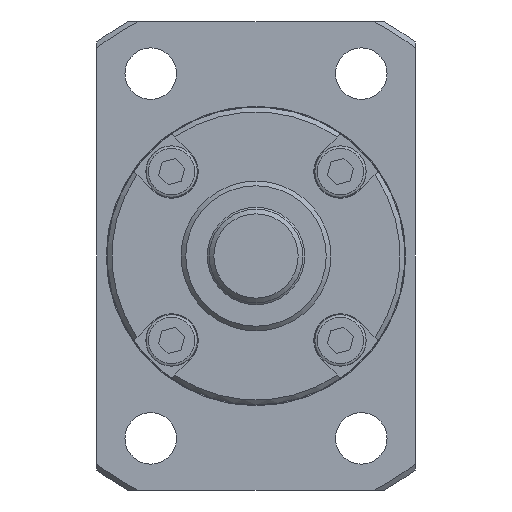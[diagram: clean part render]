
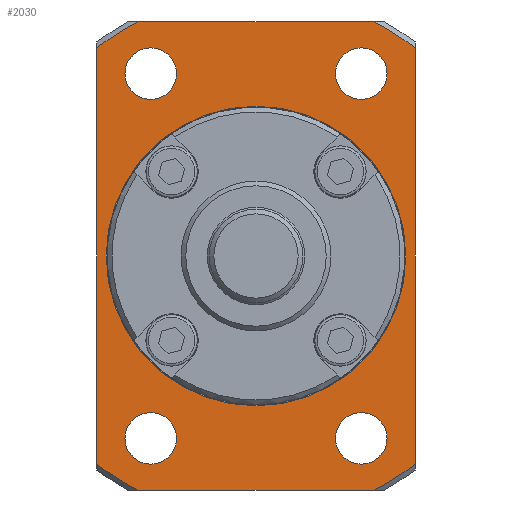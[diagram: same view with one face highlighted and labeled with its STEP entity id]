
A CAD part, left-side view. The second image highlights one B-rep face of the part: STEP entity #2030.
In plain terms, the highlighted planar face has unit normal (-1, 0, 0).
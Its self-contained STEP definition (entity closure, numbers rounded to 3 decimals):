
#187=CIRCLE('',#2260,28.);
#188=CIRCLE('',#2262,28.);
#189=CIRCLE('',#2264,28.);
#190=CIRCLE('',#2266,28.);
#191=CIRCLE('',#2268,14.4);
#192=CIRCLE('',#2269,2.75);
#193=CIRCLE('',#2270,2.75);
#194=CIRCLE('',#2271,2.75);
#195=CIRCLE('',#2272,2.75);
#449=ORIENTED_EDGE('',*,*,#918,.T.);
#450=ORIENTED_EDGE('',*,*,#919,.T.);
#451=ORIENTED_EDGE('',*,*,#920,.T.);
#452=ORIENTED_EDGE('',*,*,#921,.T.);
#453=ORIENTED_EDGE('',*,*,#922,.T.);
#454=ORIENTED_EDGE('',*,*,#907,.F.);
#455=ORIENTED_EDGE('',*,*,#923,.F.);
#456=ORIENTED_EDGE('',*,*,#909,.F.);
#457=ORIENTED_EDGE('',*,*,#924,.T.);
#458=ORIENTED_EDGE('',*,*,#913,.F.);
#459=ORIENTED_EDGE('',*,*,#925,.F.);
#460=ORIENTED_EDGE('',*,*,#915,.F.);
#461=ORIENTED_EDGE('',*,*,#926,.F.);
#907=EDGE_CURVE('',#1147,#1148,#187,.T.);
#909=EDGE_CURVE('',#1149,#1150,#188,.T.);
#913=EDGE_CURVE('',#1151,#1152,#189,.T.);
#915=EDGE_CURVE('',#1153,#1154,#190,.T.);
#918=EDGE_CURVE('',#1155,#1155,#191,.T.);
#919=EDGE_CURVE('',#1156,#1156,#192,.T.);
#920=EDGE_CURVE('',#1157,#1157,#193,.T.);
#921=EDGE_CURVE('',#1158,#1158,#194,.T.);
#922=EDGE_CURVE('',#1159,#1159,#195,.T.);
#923=EDGE_CURVE('',#1150,#1147,#1281,.T.);
#924=EDGE_CURVE('',#1149,#1152,#1282,.T.);
#925=EDGE_CURVE('',#1154,#1151,#1283,.T.);
#926=EDGE_CURVE('',#1148,#1153,#1284,.T.);
#1147=VERTEX_POINT('',#3396);
#1148=VERTEX_POINT('',#3398);
#1149=VERTEX_POINT('',#3405);
#1150=VERTEX_POINT('',#3406);
#1151=VERTEX_POINT('',#3420);
#1152=VERTEX_POINT('',#3422);
#1153=VERTEX_POINT('',#3429);
#1154=VERTEX_POINT('',#3430);
#1155=VERTEX_POINT('',#3441);
#1156=VERTEX_POINT('',#3443);
#1157=VERTEX_POINT('',#3445);
#1158=VERTEX_POINT('',#3447);
#1159=VERTEX_POINT('',#3449);
#1281=LINE('',#3450,#1413);
#1282=LINE('',#3451,#1414);
#1283=LINE('',#3452,#1415);
#1284=LINE('',#3453,#1416);
#1413=VECTOR('',#2721,1000.);
#1414=VECTOR('',#2722,1000.);
#1415=VECTOR('',#2723,1000.);
#1416=VECTOR('',#2724,1000.);
#1569=EDGE_LOOP('',(#449));
#1570=EDGE_LOOP('',(#450));
#1571=EDGE_LOOP('',(#451));
#1572=EDGE_LOOP('',(#452));
#1573=EDGE_LOOP('',(#453));
#1574=EDGE_LOOP('',(#454,#455,#456,#457,#458,#459,#460,#461));
#1778=FACE_BOUND('',#1569,.T.);
#1779=FACE_BOUND('',#1570,.T.);
#1780=FACE_BOUND('',#1571,.T.);
#1781=FACE_BOUND('',#1572,.T.);
#1782=FACE_BOUND('',#1573,.T.);
#1783=FACE_BOUND('',#1574,.T.);
#1922=PLANE('',#2267);
#2030=ADVANCED_FACE('',(#1778,#1779,#1780,#1781,#1782,#1783),#1922,.T.);
#2260=AXIS2_PLACEMENT_3D('',#3397,#2695,#2696);
#2262=AXIS2_PLACEMENT_3D('',#3404,#2699,#2700);
#2264=AXIS2_PLACEMENT_3D('',#3421,#2703,#2704);
#2266=AXIS2_PLACEMENT_3D('',#3428,#2707,#2708);
#2267=AXIS2_PLACEMENT_3D('',#3439,#2709,#2710);
#2268=AXIS2_PLACEMENT_3D('',#3440,#2711,#2712);
#2269=AXIS2_PLACEMENT_3D('',#3442,#2713,#2714);
#2270=AXIS2_PLACEMENT_3D('',#3444,#2715,#2716);
#2271=AXIS2_PLACEMENT_3D('',#3446,#2717,#2718);
#2272=AXIS2_PLACEMENT_3D('',#3448,#2719,#2720);
#2695=DIRECTION('',(1.,0.,0.));
#2696=DIRECTION('',(0.,0.,-1.));
#2699=DIRECTION('',(1.,0.,0.));
#2700=DIRECTION('',(0.,0.,-1.));
#2703=DIRECTION('',(1.,0.,0.));
#2704=DIRECTION('',(0.,0.,-1.));
#2707=DIRECTION('',(1.,0.,0.));
#2708=DIRECTION('',(0.,0.,-1.));
#2709=DIRECTION('',(-1.,0.,0.));
#2710=DIRECTION('',(0.,0.,1.));
#2711=DIRECTION('',(1.,0.,0.));
#2712=DIRECTION('',(0.,0.,-1.));
#2713=DIRECTION('',(1.,0.,0.));
#2714=DIRECTION('',(0.,0.,-1.));
#2715=DIRECTION('',(1.,0.,0.));
#2716=DIRECTION('',(0.,0.,-1.));
#2717=DIRECTION('',(1.,0.,0.));
#2718=DIRECTION('',(0.,0.,-1.));
#2719=DIRECTION('',(1.,0.,0.));
#2720=DIRECTION('',(0.,0.,-1.));
#2721=DIRECTION('',(0.,-1.,0.));
#2722=DIRECTION('',(0.,0.,-1.));
#2723=DIRECTION('',(0.,1.,0.));
#2724=DIRECTION('',(0.,0.,-1.));
#3396=CARTESIAN_POINT('',(23.,-12.61,25.));
#3397=CARTESIAN_POINT('',(23.,0.,0.));
#3398=CARTESIAN_POINT('',(23.,-17.,22.249));
#3404=CARTESIAN_POINT('',(23.,0.,0.));
#3405=CARTESIAN_POINT('',(23.,17.,22.249));
#3406=CARTESIAN_POINT('',(23.,12.61,25.));
#3420=CARTESIAN_POINT('',(23.,12.61,-25.));
#3421=CARTESIAN_POINT('',(23.,0.,0.));
#3422=CARTESIAN_POINT('',(23.,17.,-22.249));
#3428=CARTESIAN_POINT('',(23.,0.,0.));
#3429=CARTESIAN_POINT('',(23.,-17.,-22.249));
#3430=CARTESIAN_POINT('',(23.,-12.61,-25.));
#3439=CARTESIAN_POINT('',(23.,28.,0.));
#3440=CARTESIAN_POINT('',(23.,0.,0.));
#3441=CARTESIAN_POINT('',(23.,0.,-14.4));
#3442=CARTESIAN_POINT('',(23.,11.25,19.486));
#3443=CARTESIAN_POINT('',(23.,11.25,16.736));
#3444=CARTESIAN_POINT('',(23.,-11.25,19.486));
#3445=CARTESIAN_POINT('',(23.,-11.25,16.736));
#3446=CARTESIAN_POINT('',(23.,-11.25,-19.486));
#3447=CARTESIAN_POINT('',(23.,-11.25,-22.236));
#3448=CARTESIAN_POINT('',(23.,11.25,-19.486));
#3449=CARTESIAN_POINT('',(23.,11.25,-22.236));
#3450=CARTESIAN_POINT('',(23.,17.1,25.));
#3451=CARTESIAN_POINT('',(23.,17.,0.));
#3452=CARTESIAN_POINT('',(23.,-17.1,-25.));
#3453=CARTESIAN_POINT('',(23.,-17.,28.6));
